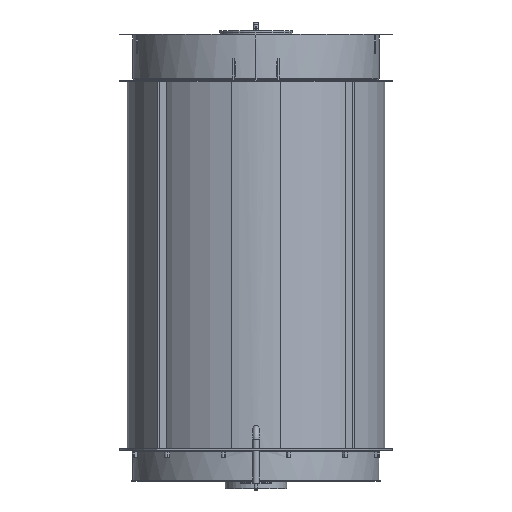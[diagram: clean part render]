
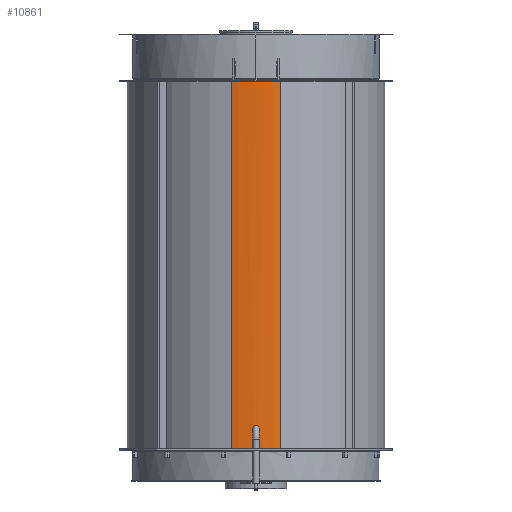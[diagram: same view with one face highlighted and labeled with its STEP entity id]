
A CAD part, front view. The second image highlights one B-rep face of the part: STEP entity #10861.
In plain terms, the highlighted cylindrical face has radius 883 mm (diameter 1766 mm), a partial arc.
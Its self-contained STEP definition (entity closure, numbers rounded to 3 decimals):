
#143=FACE_BOUND('',#1428,.T.);
#556=B_SPLINE_CURVE_WITH_KNOTS('',3,(#15796,#15797,#15798,#15799,#15800,
#15801,#15802,#15803,#15804,#15805,#15806,#15807,#15808,#15809,#15810,#15811,
#15812,#15813,#15814,#15815),.UNSPECIFIED.,.F.,.F.,(4,2,2,2,2,2,2,2,2,4),
(-6.747,-6.709,-5.917,-5.073,
-4.181,-3.301,-2.448,-1.62,
-0.807,0.),.UNSPECIFIED.);
#557=B_SPLINE_CURVE_WITH_KNOTS('',3,(#15816,#15817,#15818,#15819,#15820,
#15821,#15822,#15823,#15824,#15825,#15826,#15827,#15828,#15829,#15830,#15831,
#15832,#15833,#15834,#15835),.UNSPECIFIED.,.F.,.F.,(4,2,2,2,2,2,2,2,2,4),
(-13.493,-13.029,-12.563,-11.739,
-10.891,-10.011,-9.118,-8.26,
-7.467,-6.747),.UNSPECIFIED.);
#841=FACE_OUTER_BOUND('',#1427,.T.);
#1427=EDGE_LOOP('',(#8118,#8119,#8120,#8121,#8122,#8123,#8124,#8125));
#1428=EDGE_LOOP('',(#8126,#8127));
#1999=CIRCLE('',#11733,883.);
#2001=CIRCLE('',#11736,883.);
#2003=CIRCLE('',#11740,883.);
#2004=CIRCLE('',#11741,883.);
#2005=CIRCLE('',#11742,883.);
#2006=CIRCLE('',#11743,883.);
#2756=LINE('',#17411,#3735);
#2757=LINE('',#17415,#3736);
#3735=VECTOR('',#13917,10.);
#3736=VECTOR('',#13922,10.);
#4284=VERTEX_POINT('',#15793);
#4285=VERTEX_POINT('',#15795);
#4357=VERTEX_POINT('',#16242);
#4405=VERTEX_POINT('',#16386);
#4550=VERTEX_POINT('',#16810);
#4602=VERTEX_POINT('',#16960);
#4739=VERTEX_POINT('',#17398);
#4741=VERTEX_POINT('',#17404);
#4742=VERTEX_POINT('',#17410);
#4743=VERTEX_POINT('',#17413);
#5300=EDGE_CURVE('',#4284,#4285,#556,.T.);
#5301=EDGE_CURVE('',#4285,#4284,#557,.T.);
#5985=EDGE_CURVE('',#4550,#4739,#1999,.T.);
#5988=EDGE_CURVE('',#4357,#4741,#2001,.T.);
#5991=EDGE_CURVE('',#4742,#4739,#2756,.T.);
#5992=EDGE_CURVE('',#4550,#4602,#2003,.T.);
#5993=EDGE_CURVE('',#4743,#4602,#2004,.T.);
#5994=EDGE_CURVE('',#4743,#4741,#2757,.T.);
#5995=EDGE_CURVE('',#4357,#4405,#2005,.T.);
#5996=EDGE_CURVE('',#4742,#4405,#2006,.T.);
#8118=ORIENTED_EDGE('',*,*,#5991,.T.);
#8119=ORIENTED_EDGE('',*,*,#5985,.F.);
#8120=ORIENTED_EDGE('',*,*,#5992,.T.);
#8121=ORIENTED_EDGE('',*,*,#5993,.F.);
#8122=ORIENTED_EDGE('',*,*,#5994,.T.);
#8123=ORIENTED_EDGE('',*,*,#5988,.F.);
#8124=ORIENTED_EDGE('',*,*,#5995,.T.);
#8125=ORIENTED_EDGE('',*,*,#5996,.F.);
#8126=ORIENTED_EDGE('',*,*,#5301,.F.);
#8127=ORIENTED_EDGE('',*,*,#5300,.F.);
#9960=CYLINDRICAL_SURFACE('',#11739,883.);
#10861=ADVANCED_FACE('',(#841,#143),#9960,.T.);
#11733=AXIS2_PLACEMENT_3D('',#17399,#13901,#13902);
#11736=AXIS2_PLACEMENT_3D('',#17405,#13908,#13909);
#11739=AXIS2_PLACEMENT_3D('',#17409,#13915,#13916);
#11740=AXIS2_PLACEMENT_3D('',#17412,#13918,#13919);
#11741=AXIS2_PLACEMENT_3D('',#17414,#13920,#13921);
#11742=AXIS2_PLACEMENT_3D('',#17416,#13923,#13924);
#11743=AXIS2_PLACEMENT_3D('',#17417,#13925,#13926);
#13901=DIRECTION('center_axis',(0.,0.,1.));
#13902=DIRECTION('ref_axis',(-1.,0.,0.));
#13908=DIRECTION('center_axis',(0.,0.,-1.));
#13909=DIRECTION('ref_axis',(-1.,0.,0.));
#13915=DIRECTION('center_axis',(0.,0.,-1.));
#13916=DIRECTION('ref_axis',(-1.,0.,0.));
#13917=DIRECTION('',(0.,0.,1.));
#13918=DIRECTION('center_axis',(0.,0.,-1.));
#13919=DIRECTION('ref_axis',(-1.,0.,0.));
#13920=DIRECTION('center_axis',(0.,0.,1.));
#13921=DIRECTION('ref_axis',(-1.,0.,0.));
#13922=DIRECTION('',(0.,0.,-1.));
#13923=DIRECTION('center_axis',(0.,0.,1.));
#13924=DIRECTION('ref_axis',(-1.,0.,0.));
#13925=DIRECTION('center_axis',(0.,0.,-1.));
#13926=DIRECTION('ref_axis',(-1.,0.,0.));
#15793=CARTESIAN_POINT('',(0.,-883.,-224.84));
#15795=CARTESIAN_POINT('',(0.,-883.,-181.106));
#15796=CARTESIAN_POINT('Ctrl Pts',(0.,-883.,-224.84));
#15797=CARTESIAN_POINT('Ctrl Pts',(0.129,-883.,-224.84));
#15798=CARTESIAN_POINT('Ctrl Pts',(0.258,-883.,
-224.839));
#15799=CARTESIAN_POINT('Ctrl Pts',(3.024,-882.999,-224.784));
#15800=CARTESIAN_POINT('Ctrl Pts',(5.609,-882.985,-224.192));
#15801=CARTESIAN_POINT('Ctrl Pts',(10.587,-882.94,-221.972));
#15802=CARTESIAN_POINT('Ctrl Pts',(12.894,-882.908,-220.304));
#15803=CARTESIAN_POINT('Ctrl Pts',(16.863,-882.841,-216.089));
#15804=CARTESIAN_POINT('Ctrl Pts',(18.455,-882.808,-213.527));
#15805=CARTESIAN_POINT('Ctrl Pts',(20.554,-882.761,-207.995));
#15806=CARTESIAN_POINT('Ctrl Pts',(21.062,-882.749,-205.065));
#15807=CARTESIAN_POINT('Ctrl Pts',(20.928,-882.752,-199.282));
#15808=CARTESIAN_POINT('Ctrl Pts',(20.324,-882.767,-196.474));
#15809=CARTESIAN_POINT('Ctrl Pts',(18.1,-882.815,-191.327));
#15810=CARTESIAN_POINT('Ctrl Pts',(16.532,-882.847,-189.025));
#15811=CARTESIAN_POINT('Ctrl Pts',(12.629,-882.912,-185.188));
#15812=CARTESIAN_POINT('Ctrl Pts',(10.349,-882.943,-183.68));
#15813=CARTESIAN_POINT('Ctrl Pts',(5.352,-882.987,-181.632));
#15814=CARTESIAN_POINT('Ctrl Pts',(2.69,-883.,-181.106));
#15815=CARTESIAN_POINT('Ctrl Pts',(0.,-883.,-181.106));
#15816=CARTESIAN_POINT('Ctrl Pts',(0.,-883.,-181.106));
#15817=CARTESIAN_POINT('Ctrl Pts',(-1.549,-883.,-181.106));
#15818=CARTESIAN_POINT('Ctrl Pts',(-3.092,-882.996,
-181.281));
#15819=CARTESIAN_POINT('Ctrl Pts',(-6.114,-882.98,
-181.972));
#15820=CARTESIAN_POINT('Ctrl Pts',(-7.583,-882.969,
-182.486));
#15821=CARTESIAN_POINT('Ctrl Pts',(-11.454,-882.929,
-184.352));
#15822=CARTESIAN_POINT('Ctrl Pts',(-13.665,-882.896,
-186.021));
#15823=CARTESIAN_POINT('Ctrl Pts',(-17.384,-882.831,
-190.177));
#15824=CARTESIAN_POINT('Ctrl Pts',(-18.828,-882.8,
-192.641));
#15825=CARTESIAN_POINT('Ctrl Pts',(-20.73,-882.757,
-198.085));
#15826=CARTESIAN_POINT('Ctrl Pts',(-21.132,-882.747,
-201.023));
#15827=CARTESIAN_POINT('Ctrl Pts',(-20.79,-882.755,
-206.93));
#15828=CARTESIAN_POINT('Ctrl Pts',(-20.032,-882.774,-209.851));
#15829=CARTESIAN_POINT('Ctrl Pts',(-17.502,-882.827,
-215.119));
#15830=CARTESIAN_POINT('Ctrl Pts',(-15.784,-882.861,
-217.454));
#15831=CARTESIAN_POINT('Ctrl Pts',(-11.728,-882.924,
-221.174));
#15832=CARTESIAN_POINT('Ctrl Pts',(-9.47,-882.953,
-222.594));
#15833=CARTESIAN_POINT('Ctrl Pts',(-4.761,-882.99,
-224.395));
#15834=CARTESIAN_POINT('Ctrl Pts',(-2.396,-883.,-224.84));
#15835=CARTESIAN_POINT('Ctrl Pts',(0.,-883.,-224.84));
#16242=CARTESIAN_POINT('',(-4.197,-882.99,-340.));
#16386=CARTESIAN_POINT('',(4.197,-882.99,-340.));
#16810=CARTESIAN_POINT('',(4.197,-882.99,2175.));
#16960=CARTESIAN_POINT('',(-4.197,-882.99,2175.));
#17398=CARTESIAN_POINT('',(168.484,-866.777,2175.));
#17399=CARTESIAN_POINT('Origin',(0.,0.,2175.));
#17404=CARTESIAN_POINT('',(-168.484,-866.777,-340.));
#17405=CARTESIAN_POINT('Origin',(0.,0.,-340.));
#17409=CARTESIAN_POINT('Origin',(0.,0.,2175.));
#17410=CARTESIAN_POINT('',(168.484,-866.777,-340.));
#17411=CARTESIAN_POINT('',(168.484,-866.777,2175.));
#17412=CARTESIAN_POINT('Origin',(0.,0.,2175.));
#17413=CARTESIAN_POINT('',(-168.484,-866.777,2175.));
#17414=CARTESIAN_POINT('Origin',(0.,0.,2175.));
#17415=CARTESIAN_POINT('',(-168.484,-866.777,2175.));
#17416=CARTESIAN_POINT('Origin',(0.,0.,-340.));
#17417=CARTESIAN_POINT('Origin',(0.,0.,-340.));
